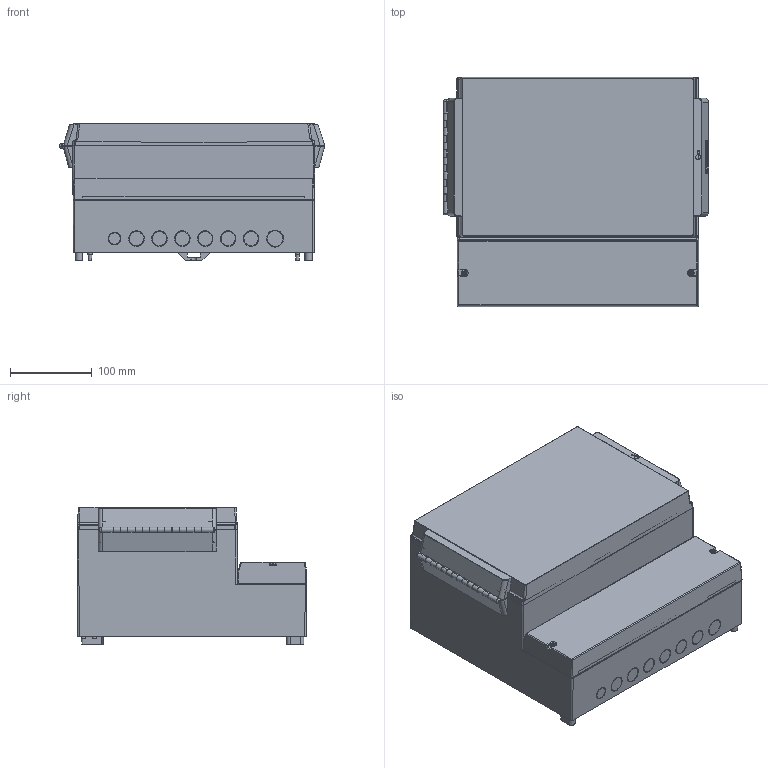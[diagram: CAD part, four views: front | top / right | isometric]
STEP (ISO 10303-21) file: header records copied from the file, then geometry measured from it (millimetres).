
FILE_DESCRIPTION((''),'2;1');
FILE_NAME('F:\User\Daten\Internet-3D-Daten\RCP - CF - CR - CB\RCP 350_\41350109_RCP 3500.stp','2010-02-18T13:14:05',('haertel'),(''),'Autodesk Inventor 2010','Autodesk Inventor 2010','');
FILE_SCHEMA(('AUTOMOTIVE_DESIGN { 1 0 10303 214 1 1 1 1 }'));
Length unit declared in the file: millimetre
Products named in the file (8): RCP; 1003597_3Dsym; 1003600_3Dsym; SHR Z KAL40x30x10 WN 1412 mG_3Dsym; 1002518_3Dsym; 1002551_3Dsym_montiert; 1002547_3Dsym_montiert; 1002552_3Dsym
Assembly tree (8 placements, depth 2):
  RCP
    1003597_3Dsym
    1003600_3Dsym
    SHR Z KAL40x30x10 WN 1412 mG_3Dsym  x2
    1002518_3Dsym
    1002551_3Dsym_montiert
    1002547_3Dsym_montiert
    1002552_3Dsym
Bounding box: 324.31 x 281 x 168 mm (x, y, z)
Volume: 1290215.9 mm3; surface area: 822497.9 mm2
Topology: 8 solids, 8 shells, 2084 faces, 5518 edges, 3559 vertices
Faces by surface type: plane 1451, cylinder 486, bspline 94, torus 28, cone 19, sphere 6
Full cylindrical faces by diameter (mm): 2 x10, 2.1 x14, 2.4 x28, 2.45 x4, 2.5 x4, 2.9 x2, 3.2 x6, 3.25 x2, 4.2 x4, 4.5 x8, 5 x4, 6.7 x8, 7 x2, 8.8 x8, 14 x1, 15.6 x1, 17.4 x13, 19 x13, 19.2 x1, 20.8 x1
Entity records: 63295 total; most frequent: CARTESIAN_POINT 13832, ORIENTED_EDGE 10164, DIRECTION 10011, EDGE_CURVE 5082, VECTOR 3867, LINE 3867, VERTEX_POINT 3381, AXIS2_PLACEMENT_3D 3072
